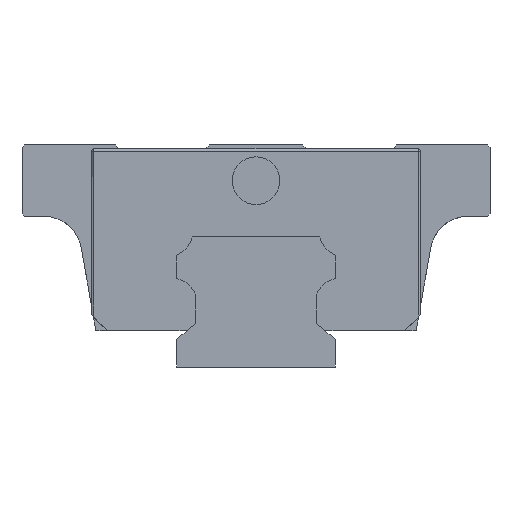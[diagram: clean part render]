
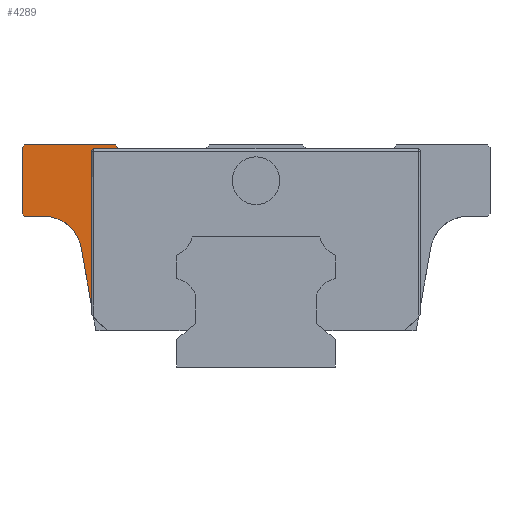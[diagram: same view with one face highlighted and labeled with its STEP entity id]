
A CAD part, left-side view. The second image highlights one B-rep face of the part: STEP entity #4289.
In plain terms, the highlighted planar face has unit normal (-1, 0, 0).
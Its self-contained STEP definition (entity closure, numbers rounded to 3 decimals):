
#92 = CARTESIAN_POINT ( 'NONE',  ( -23.35, 20.75, 26.875 ) ) ;
#346 = CARTESIAN_POINT ( 'NONE',  ( -23.35, 17.28, 27.5 ) ) ;
#356 = VERTEX_POINT ( 'NONE', #1538 ) ;
#526 = EDGE_CURVE ( 'NONE', #3983, #6683, #628, .T. ) ;
#575 = EDGE_CURVE ( 'NONE', #1729, #6152, #1379, .T. ) ;
#599 = ORIENTED_EDGE ( 'NONE', *, *, #575, .T. ) ;
#612 = LINE ( 'NONE', #2329, #6131 ) ;
#628 = LINE ( 'NONE', #2955, #6101 ) ;
#762 = EDGE_CURVE ( 'NONE', #6152, #3130, #4999, .T. ) ;
#764 = DIRECTION ( 'NONE',  ( 0., 0., 1. ) ) ;
#961 = CARTESIAN_POINT ( 'NONE',  ( -23.35, 29.205, 28. ) ) ;
#970 = DIRECTION ( 'NONE',  ( -1., 0., 0. ) ) ;
#986 = DIRECTION ( 'NONE',  ( 0., -0.174, -0.985 ) ) ;
#990 = CARTESIAN_POINT ( 'NONE',  ( -23.35, 21.932, 35.273 ) ) ;
#1180 = EDGE_CURVE ( 'NONE', #4640, #7243, #1599, .T. ) ;
#1287 = CARTESIAN_POINT ( 'NONE',  ( -23.35, 29.5, 19.295 ) ) ;
#1379 = LINE ( 'NONE', #1849, #3767 ) ;
#1484 = CARTESIAN_POINT ( 'NONE',  ( -23.35, 20.455, 27.5 ) ) ;
#1538 = CARTESIAN_POINT ( 'NONE',  ( -23.35, 17.7, 28. ) ) ;
#1585 = ORIENTED_EDGE ( 'NONE', *, *, #4976, .T. ) ;
#1599 = LINE ( 'NONE', #990, #3208 ) ;
#1689 = DIRECTION ( 'NONE',  ( 0., 0., 1. ) ) ;
#1729 = VERTEX_POINT ( 'NONE', #7084 ) ;
#1849 = CARTESIAN_POINT ( 'NONE',  ( -23.35, 29.5, 19. ) ) ;
#2174 = LINE ( 'NONE', #6828, #6876 ) ;
#2181 = ORIENTED_EDGE ( 'NONE', *, *, #3760, .T. ) ;
#2329 = CARTESIAN_POINT ( 'NONE',  ( -23.35, 17.228, 27.438 ) ) ;
#2518 = CARTESIAN_POINT ( 'NONE',  ( -23.35, 20.455, 27.205 ) ) ;
#2559 = VERTEX_POINT ( 'NONE', #5761 ) ;
#2955 = CARTESIAN_POINT ( 'NONE',  ( -23.35, -20.542, 27.5 ) ) ;
#3072 = LINE ( 'NONE', #92, #3724 ) ;
#3130 = VERTEX_POINT ( 'NONE', #3449 ) ;
#3184 = DIRECTION ( 'NONE',  ( 1., 0., 0. ) ) ;
#3208 = VECTOR ( 'NONE', #3323, 1000. ) ;
#3278 = DIRECTION ( 'NONE',  ( 0., 1., 0. ) ) ;
#3295 = EDGE_LOOP ( 'NONE', ( #3679, #2181, #6307, #5890, #3404, #5176, #599, #3774, #4893, #5701, #1585 ) ) ;
#3323 = DIRECTION ( 'NONE',  ( 0., 0.707, -0.707 ) ) ;
#3404 = ORIENTED_EDGE ( 'NONE', *, *, #5591, .T. ) ;
#3449 = CARTESIAN_POINT ( 'NONE',  ( -23.35, 22.036, 15.075 ) ) ;
#3481 = CARTESIAN_POINT ( 'NONE',  ( -23.35, 3.032, -7.173 ) ) ;
#3610 = DIRECTION ( 'NONE',  ( 0., 0., -1. ) ) ;
#3679 = ORIENTED_EDGE ( 'NONE', *, *, #526, .F. ) ;
#3724 = VECTOR ( 'NONE', #3610, 1000. ) ;
#3760 = EDGE_CURVE ( 'NONE', #3983, #356, #612, .T. ) ;
#3767 = VECTOR ( 'NONE', #7221, 1000. ) ;
#3774 = ORIENTED_EDGE ( 'NONE', *, *, #762, .T. ) ;
#3879 = PLANE ( 'NONE',  #5732 ) ;
#3898 = CARTESIAN_POINT ( 'NONE',  ( -23.35, 29.5, 28. ) ) ;
#3983 = VERTEX_POINT ( 'NONE', #346 ) ;
#3986 = EDGE_CURVE ( 'NONE', #3130, #2559, #2174, .T. ) ;
#4057 = LINE ( 'NONE', #3898, #6047 ) ;
#4207 = AXIS2_PLACEMENT_3D ( 'NONE', #2518, #6019, #764 ) ;
#4268 = CARTESIAN_POINT ( 'NONE',  ( -23.35, 26.714, 19. ) ) ;
#4289 = ADVANCED_FACE ( 'NONE', ( #4467 ), #3879, .T. ) ;
#4467 = FACE_OUTER_BOUND ( 'NONE', #3295, .T. ) ;
#4492 = DIRECTION ( 'NONE',  ( 0., -0.707, -0.707 ) ) ;
#4555 = CARTESIAN_POINT ( 'NONE',  ( -23.35, 29.5, 27.705 ) ) ;
#4640 = VERTEX_POINT ( 'NONE', #961 ) ;
#4643 = LINE ( 'NONE', #3481, #5691 ) ;
#4695 = EDGE_CURVE ( 'NONE', #7366, #1729, #4643, .T. ) ;
#4839 = VERTEX_POINT ( 'NONE', #7134 ) ;
#4893 = ORIENTED_EDGE ( 'NONE', *, *, #3986, .T. ) ;
#4976 = EDGE_CURVE ( 'NONE', #4839, #6683, #6057, .T. ) ;
#4999 = CIRCLE ( 'NONE', #5617, 4.75 ) ;
#5034 = DIRECTION ( 'NONE',  ( 0., 0., 1. ) ) ;
#5080 = EDGE_CURVE ( 'NONE', #4839, #2559, #3072, .T. ) ;
#5176 = ORIENTED_EDGE ( 'NONE', *, *, #4695, .T. ) ;
#5398 = VECTOR ( 'NONE', #3278, 1000. ) ;
#5591 = EDGE_CURVE ( 'NONE', #7243, #7366, #4057, .T. ) ;
#5609 = CARTESIAN_POINT ( 'NONE',  ( -23.35, 26.714, 14.25 ) ) ;
#5617 = AXIS2_PLACEMENT_3D ( 'NONE', #5609, #3184, #5034 ) ;
#5691 = VECTOR ( 'NONE', #4492, 1000. ) ;
#5701 = ORIENTED_EDGE ( 'NONE', *, *, #5080, .F. ) ;
#5732 = AXIS2_PLACEMENT_3D ( 'NONE', #6235, #970, #1689 ) ;
#5761 = CARTESIAN_POINT ( 'NONE',  ( -23.35, 20.75, 7.78 ) ) ;
#5890 = ORIENTED_EDGE ( 'NONE', *, *, #1180, .T. ) ;
#6019 = DIRECTION ( 'NONE',  ( 1., 0., 0. ) ) ;
#6047 = VECTOR ( 'NONE', #6979, 1000. ) ;
#6057 = CIRCLE ( 'NONE', #4207, 0.295 ) ;
#6089 = CARTESIAN_POINT ( 'NONE',  ( -23.35, 17.7, 28. ) ) ;
#6101 = VECTOR ( 'NONE', #7567, 1000. ) ;
#6131 = VECTOR ( 'NONE', #7060, 1000. ) ;
#6152 = VERTEX_POINT ( 'NONE', #4268 ) ;
#6235 = CARTESIAN_POINT ( 'NONE',  ( -23.35, -8.741, 4.6 ) ) ;
#6307 = ORIENTED_EDGE ( 'NONE', *, *, #7103, .T. ) ;
#6683 = VERTEX_POINT ( 'NONE', #1484 ) ;
#6750 = LINE ( 'NONE', #6089, #5398 ) ;
#6828 = CARTESIAN_POINT ( 'NONE',  ( -23.35, 22.728, 19. ) ) ;
#6876 = VECTOR ( 'NONE', #986, 1000. ) ;
#6979 = DIRECTION ( 'NONE',  ( 0., 0., -1. ) ) ;
#7060 = DIRECTION ( 'NONE',  ( 0., 0.643, 0.766 ) ) ;
#7084 = CARTESIAN_POINT ( 'NONE',  ( -23.35, 29.205, 19. ) ) ;
#7103 = EDGE_CURVE ( 'NONE', #356, #4640, #6750, .T. ) ;
#7134 = CARTESIAN_POINT ( 'NONE',  ( -23.35, 20.75, 27.205 ) ) ;
#7221 = DIRECTION ( 'NONE',  ( 0., -1., 0. ) ) ;
#7243 = VERTEX_POINT ( 'NONE', #4555 ) ;
#7366 = VERTEX_POINT ( 'NONE', #1287 ) ;
#7567 = DIRECTION ( 'NONE',  ( 0., 1., 0. ) ) ;
